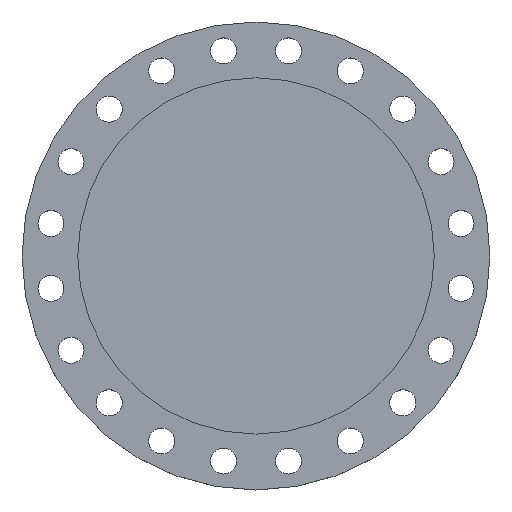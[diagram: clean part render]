
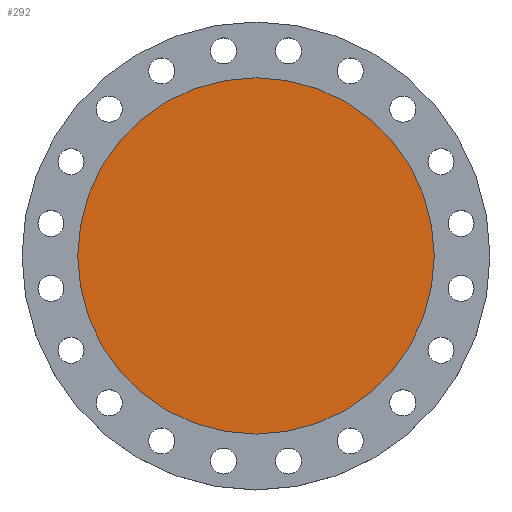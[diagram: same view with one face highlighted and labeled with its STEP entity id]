
A CAD part, top view. The second image highlights one B-rep face of the part: STEP entity #292.
In plain terms, the highlighted planar face has unit normal (0, 0, 1).
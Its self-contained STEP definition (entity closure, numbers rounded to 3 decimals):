
#170 = CIRCLE ( 'NONE', #177, 287.5 ) ;
#177 = AXIS2_PLACEMENT_3D ( 'NONE', #305, #304, #302 ) ;
#292 = ADVANCED_FACE ( 'NONE', ( #841 ), #839, .T. ) ;
#302 = DIRECTION ( 'NONE',  ( -1., 0., 0. ) ) ;
#304 = DIRECTION ( 'NONE',  ( 0., 0., -1. ) ) ;
#305 = CARTESIAN_POINT ( 'NONE',  ( 0., 0., 0. ) ) ;
#377 = CARTESIAN_POINT ( 'NONE',  ( 287.5, 0., 0. ) ) ;
#524 = CARTESIAN_POINT ( 'NONE',  ( -287.5, 0., 0. ) ) ;
#600 = EDGE_CURVE ( 'NONE', #1093, #1286, #871, .T. ) ;
#709 = DIRECTION ( 'NONE',  ( -1., 0., 0. ) ) ;
#710 = DIRECTION ( 'NONE',  ( 0., 0., -1. ) ) ;
#711 = CARTESIAN_POINT ( 'NONE',  ( 0., 0., 0. ) ) ;
#760 = AXIS2_PLACEMENT_3D ( 'NONE', #838, #837, #836 ) ;
#836 = DIRECTION ( 'NONE',  ( 1., 0., 0. ) ) ;
#837 = DIRECTION ( 'NONE',  ( 0., 0., 1. ) ) ;
#838 = CARTESIAN_POINT ( 'NONE',  ( 0., 0., 0. ) ) ;
#839 = PLANE ( 'NONE',  #760 ) ;
#841 = FACE_OUTER_BOUND ( 'NONE', #1536, .T. ) ;
#871 = CIRCLE ( 'NONE', #1490, 287.5 ) ;
#1093 = VERTEX_POINT ( 'NONE', #524 ) ;
#1191 = ORIENTED_EDGE ( 'NONE', *, *, #1384, .F. ) ;
#1200 = ORIENTED_EDGE ( 'NONE', *, *, #600, .F. ) ;
#1286 = VERTEX_POINT ( 'NONE', #377 ) ;
#1384 = EDGE_CURVE ( 'NONE', #1286, #1093, #170, .T. ) ;
#1490 = AXIS2_PLACEMENT_3D ( 'NONE', #711, #710, #709 ) ;
#1536 = EDGE_LOOP ( 'NONE', ( #1200, #1191 ) ) ;
